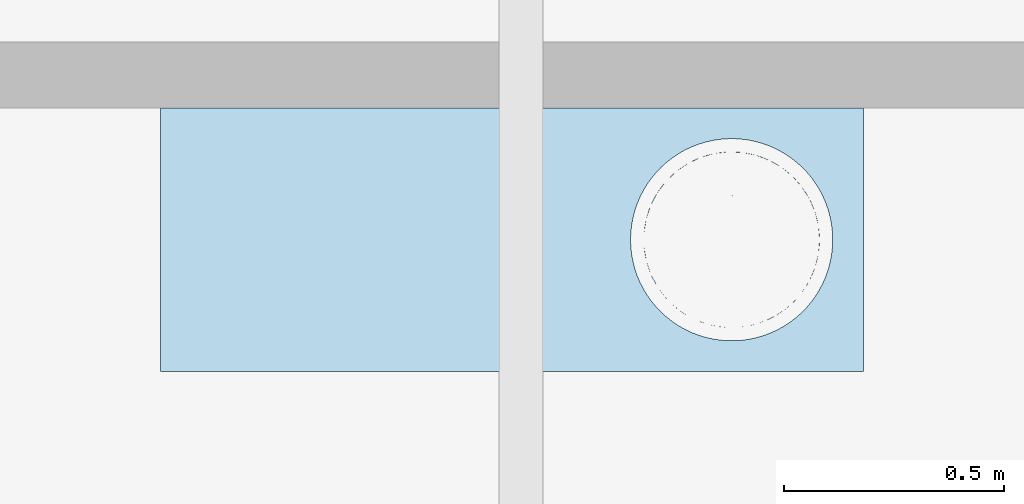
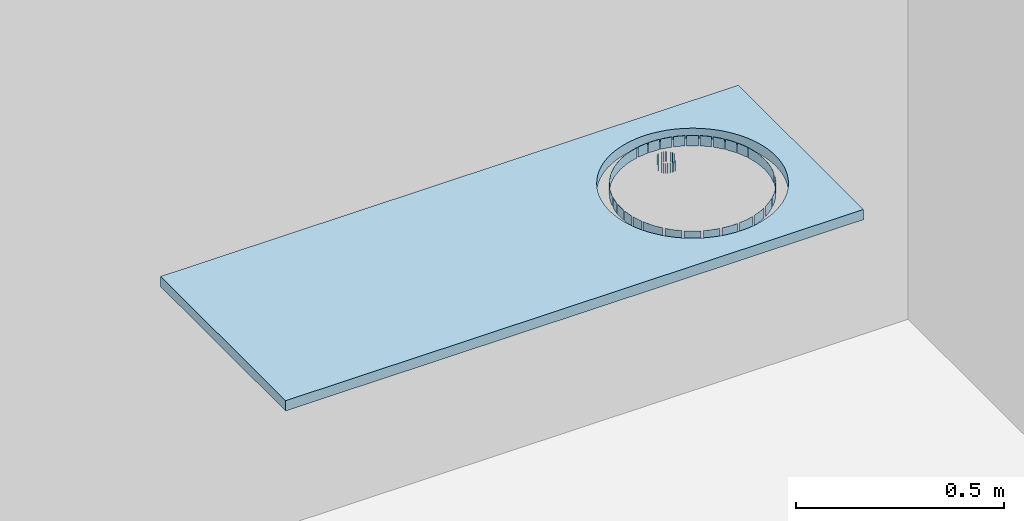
# One storey, part 10 of 140: 1 slab.
"""IFC4 building model written with IfcOpenShell, lengths in metres."""

from ifc_helpers import new_model, entity, si_unit, converted_unit, derived_unit, frame, origin, origin_with_axes, place, context, subcontext, project, spatial, polyline, outline, extrude, material, element, save


model = new_model("IFC4")

# Units and contexts
model_context = context("Model", 3, precision=1e-05, world=origin())
body_context = subcontext(model_context, "Body", "Model", "MODEL_VIEW")
ifc_project = project(units=[si_unit("LENGTHUNIT", "METRE"), si_unit("AREAUNIT", "SQUARE_METRE"), si_unit("VOLUMEUNIT", "CUBIC_METRE"), si_unit("MASSUNIT", "GRAM", prefix="KILO"), converted_unit("PLANEANGLEUNIT", "DEGREE", entity("IfcPlaneAngleMeasure", 0.0174532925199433), si_unit("PLANEANGLEUNIT", "RADIAN"), dimensions=[0, 0, 0, 0, 0, 0, 0]), derived_unit("THERMALTRANSMITTANCEUNIT", [(si_unit("POWERUNIT", "WATT"), 1), (si_unit("THERMODYNAMICTEMPERATUREUNIT", "KELVIN"), -1), (si_unit("LENGTHUNIT", "METRE"), -2)]), derived_unit("VOLUMETRICFLOWRATEUNIT", [(si_unit("LENGTHUNIT", "METRE"), 3), (converted_unit("TIMEUNIT", "hour", entity("IfcTimeMeasure", 3600.0), si_unit("TIMEUNIT", "SECOND"), dimensions=[0, 0, 1, 0, 0, 0, 0]), -1), (si_unit("LENGTHUNIT", "METRE"), -1)])], contexts=[model_context])

# Site, building, storey
site_placement = place(None, origin())
site = spatial("IfcSite", under=ifc_project, at=site_placement, Name="3. ASŘ", CompositionType="ELEMENT")
building_placement = place(site_placement, origin())
building = spatial("IfcBuilding", under=site, at=building_placement, Name="Pavilon C", CompositionType="ELEMENT")
storey_placement = place(building_placement, origin())
storey = spatial("IfcBuildingStorey", under=building, at=storey_placement, Name="Půdorys 1.NP", CompositionType="ELEMENT", Elevation=0.0)

# Slab
ifc_material = material(Name="Nerezová deska")
slab_placement = place(storey_placement, frame((49.18, 9.59969731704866, 0.82)))
element("IfcSlab", 1, at=slab_placement, inside=storey, material=ifc_material, PredefinedType="FLOOR", context=body_context, shape_type="SweptSolid", body=[
    extrude(outline(polyline([(1.59994202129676, 0.0), (1.59994202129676, 0.600168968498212), (0.300000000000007, 0.600246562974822), (0.300000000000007, 0.600302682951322), (0.0, 0.600287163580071), (0.0, 0.000287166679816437), (0.299983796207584, 0.000302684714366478), (0.299983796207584, 7.7594476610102e-05), (1.59994202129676, 0.0)]), holes=[polyline([(1.19477628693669, 0.0954513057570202), (1.18012574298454, 0.10367358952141), (1.16611447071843, 0.112943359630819), (1.15281722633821, 0.123211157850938), (1.14030495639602, 0.134422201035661), (1.12864441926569, 0.146516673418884), (1.11789782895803, 0.159430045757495), (1.10812252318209, 0.173093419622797), (1.09937065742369, 0.187433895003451), (1.09168892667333, 0.202374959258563), (1.08511831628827, 0.217836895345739), (1.07969388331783, 0.233737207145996), (1.07544456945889, 0.249991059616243), (1.07239304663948, 0.266511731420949), (1.07055559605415, 0.283211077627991), (1.06994202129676, 0.3), (1.07055559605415, 0.316788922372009), (1.07239304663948, 0.333488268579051), (1.07544456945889, 0.350008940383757), (1.07969388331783, 0.366262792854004), (1.08511831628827, 0.382163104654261), (1.09168892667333, 0.397625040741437), (1.09937065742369, 0.412566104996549), (1.10812252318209, 0.426906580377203), (1.11789782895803, 0.440569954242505), (1.12864441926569, 0.453483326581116), (1.14030495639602, 0.465577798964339), (1.15281722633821, 0.476788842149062), (1.16611447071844, 0.487056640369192), (1.18012574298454, 0.49632641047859), (1.19477628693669, 0.50454869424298), (1.20998793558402, 0.511679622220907), (1.22567952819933, 0.51768114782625), (1.24176734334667, 0.522521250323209), (1.25816554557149, 0.526174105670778), (1.27478664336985, 0.528620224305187), (1.2915419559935, 0.529846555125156), (1.30834208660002, 0.529846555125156), (1.32509739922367, 0.528620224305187), (1.34171849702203, 0.526174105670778), (1.35811669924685, 0.522521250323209), (1.37420451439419, 0.51768114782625), (1.3898961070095, 0.511679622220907), (1.40510775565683, 0.50454869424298), (1.41975829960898, 0.49632641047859), (1.43376957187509, 0.487056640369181), (1.4470668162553, 0.476788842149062), (1.4595790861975, 0.465577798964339), (1.47123962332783, 0.453483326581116), (1.48198621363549, 0.440569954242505), (1.49176151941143, 0.426906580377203), (1.50051338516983, 0.412566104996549), (1.50819511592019, 0.397625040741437), (1.51476572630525, 0.382163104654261), (1.52019015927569, 0.366262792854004), (1.52443947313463, 0.350008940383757), (1.52749099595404, 0.333488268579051), (1.52932844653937, 0.316788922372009), (1.52994202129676, 0.3), (1.52932844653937, 0.283211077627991), (1.52749099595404, 0.266511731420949), (1.52443947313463, 0.249991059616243), (1.52019015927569, 0.233737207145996), (1.51476572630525, 0.217836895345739), (1.50819511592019, 0.202374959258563), (1.50051338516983, 0.187433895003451), (1.49176151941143, 0.173093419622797), (1.48198621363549, 0.159430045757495), (1.47123962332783, 0.146516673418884), (1.4595790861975, 0.134422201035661), (1.4470668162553, 0.123211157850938), (1.43376957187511, 0.112943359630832), (1.41975829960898, 0.10367358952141), (1.40510775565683, 0.0954513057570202), (1.3898961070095, 0.0883203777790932), (1.37420451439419, 0.0823188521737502), (1.35811669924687, 0.0774787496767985), (1.34171849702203, 0.0738258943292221), (1.32509739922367, 0.0713797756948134), (1.30834208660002, 0.0701534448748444), (1.2915419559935, 0.0701534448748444), (1.27478664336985, 0.0713797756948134), (1.25816554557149, 0.0738258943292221), (1.24176734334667, 0.0774787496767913), (1.22567952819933, 0.0823188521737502), (1.20998793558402, 0.0883203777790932), (1.19477628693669, 0.0954513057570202)])]), origin_with_axes(), (0.0, 0.0, 1.0), 0.03),
    extrude(outline(polyline([(0.00825946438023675, 0.0132792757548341), (0.0162735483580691, 0.0), (0.010390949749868, 0.010188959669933), (0.0105645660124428, 0.010188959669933), (0.0, 0.0303180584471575), (0.00129852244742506, 0.027139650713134), (0.00825946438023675, 0.0132792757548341)])), frame((1.1165709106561, 0.190098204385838, 0.0), z_axis=(0.0, 0.0, 1.0), x_axis=(1.0, 0.0, 0.0)), (0.0, 0.0, 1.0), 0.03),
    extrude(outline(polyline([(0.0, 0.0141638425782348), (0.0245324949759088, 0.0), (0.0192314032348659, 0.00363577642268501), (0.00579922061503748, 0.0113908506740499), (0.0, 0.0141638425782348)])), frame((1.38735150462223, 0.465561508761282, 0.0), z_axis=(0.0, 0.0, 1.0), x_axis=(1.0, 0.0, 0.0)), (0.0, 0.0, 1.0), 0.03),
    extrude(outline(polyline([(0.00049812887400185, 0.0), (0.00049812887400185, 0.0283276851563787), (0.0, 0.0219189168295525), (0.0, 0.00640876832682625), (0.00049812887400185, 0.0)])), frame((1.10009243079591, 0.285836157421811, 0.0), z_axis=(0.0, 0.0, 1.0), x_axis=(1.0, 0.0, 0.0)), (0.0, 0.0, 1.0), 0.03),
    extrude(outline(polyline([(0.0220020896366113, 0.0), (0.0165032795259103, 0.00518785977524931), (0.00443072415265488, 0.0149253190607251), (0.0, 0.0179641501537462), (0.0220020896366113, 0.0)])), frame((1.41494301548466, 0.445499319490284, 0.0), z_axis=(0.0, 0.0, 1.0), x_axis=(1.0, 0.0, 0.0)), (0.0, 0.0, 1.0), 0.03),
    extrude(outline(polyline([(0.0265584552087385, 0.0), (0.0217113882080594, 0.00231770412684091), (0.00724222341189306, 0.00790411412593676), (0.0, 0.0100722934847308), (0.0265584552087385, 0.0)])), frame((1.35744658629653, 0.481325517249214, 0.0), z_axis=(0.0, 0.0, 1.0), x_axis=(1.0, 0.0, 0.0)), (0.0, 0.0, 1.0), 0.03),
    extrude(outline(polyline([(0.000416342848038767, 0.0226799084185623), (0.00281295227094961, 0.00735603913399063), (0.00455636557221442, 0.0), (0.0, 0.0280364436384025), (0.000416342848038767, 0.0226799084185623)])), frame((1.10087800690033, 0.254101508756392, 0.0), z_axis=(0.0, 0.0, 1.0), x_axis=(1.0, 0.0, 0.0)), (0.0, 0.0, 1.0), 0.03),
    extrude(outline(polyline([(0.0, 0.0), (0.00455636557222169, 0.0280364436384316), (0.00281295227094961, 0.0206804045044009), (0.000416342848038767, 0.00535653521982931), (0.0, 0.0)])), frame((1.10087800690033, 0.317862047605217, 0.0), z_axis=(0.0, 0.0, 1.0), x_axis=(1.0, 0.0, 0.0)), (0.0, 0.0, 1.0), 0.03),
    extrude(outline(polyline([(0.0, 0.0214370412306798), (0.0189915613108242, 0.0), (0.0136075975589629, 0.00694652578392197), (0.00318465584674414, 0.0184324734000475), (0.0, 0.0214370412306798)])), frame((1.43954331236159, 0.421610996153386, 0.0), z_axis=(0.0, 0.0, 1.0), x_axis=(1.0, 0.0, 0.0)), (0.0, 0.0, 1.0), 0.03),
    extrude(outline(polyline([(0.00906924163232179, 0.0), (0.0, 0.0271656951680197), (0.00100970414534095, 0.0229054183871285), (0.00574535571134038, 0.00813591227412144), (0.00906924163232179, 0.0)])), frame((1.10625814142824, 0.223460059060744, 0.0), z_axis=(0.0, 0.0, 1.0), x_axis=(1.0, 0.0, 0.0)), (0.0, 0.0, 1.0), 0.03),
    extrude(outline(polyline([(0.0, 0.00572865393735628), (0.0280608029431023, 0.0), (0.0238664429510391, 0.00125570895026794), (0.00870784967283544, 0.00453926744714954), (0.0, 0.00572865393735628)])), frame((1.32596380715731, 0.492422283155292, 0.0), z_axis=(0.0, 0.0, 1.0), x_axis=(1.0, 0.0, 0.0)), (0.0, 0.0, 1.0), 0.03),
    extrude(outline(polyline([(0.00100970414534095, 0.00426027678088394), (0.0, 0.0), (0.00906924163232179, 0.0271656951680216), (0.00574535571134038, 0.019029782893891), (0.00100970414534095, 0.00426027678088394)])), frame((1.10625814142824, 0.349374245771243, 0.0), z_axis=(0.0, 0.0, 1.0), x_axis=(1.0, 0.0, 0.0)), (0.0, 0.0, 1.0), 0.03),
    extrude(outline(polyline([(0.00825946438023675, 0.0170387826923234), (0.00129852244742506, 0.00317840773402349), (0.0, 0.0), (0.0135008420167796, 0.0257237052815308), (0.00825946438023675, 0.0170387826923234)])), frame((1.1165709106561, 0.379583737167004, 0.0), z_axis=(0.0, 0.0, 1.0), x_axis=(1.0, 0.0, 0.0)), (0.0, 0.0, 1.0), 0.03),
    extrude(outline(polyline([(0.0, 0.0011697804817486), (0.0290278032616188, 0.0), (0.0256259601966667, 0.000464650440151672), (0.010142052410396, 0.001366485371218), (0.0, 0.0011697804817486)])), frame((1.29367823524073, 0.498595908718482, 0.0), z_axis=(0.0, 0.0, 1.0), x_axis=(1.0, 0.0, 0.0)), (0.0, 0.0, 1.0), 0.03),
    extrude(outline(polyline([(0.0155269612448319, 0.0), (0.0106262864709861, 0.00888162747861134), (0.00210332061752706, 0.0218401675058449), (0.0, 0.0245539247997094), (0.0155269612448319, 0.0)])), frame((1.46054911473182, 0.394458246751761, 0.0), z_axis=(0.0, 0.0, 1.0), x_axis=(1.0, 0.0, 0.0)), (0.0, 0.0, 1.0), 0.03),
    extrude(outline(polyline([(0.0, 0.0), (0.0294566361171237, 0.00357668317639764), (0.0269277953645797, 0.00352763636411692), (0.0114905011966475, 0.00202608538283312), (0.0, 0.0)])), frame((1.26138526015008, 0.496133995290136, 0.0), z_axis=(0.0, 0.0, 1.0), x_axis=(1.0, 0.0, 0.0)), (0.0, 0.0, 1.0), 0.03),
    extrude(outline(polyline([(0.0, 0.0), (0.0178258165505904, 0.0237218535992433), (0.0103259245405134, 0.0147838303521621), (0.00130689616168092, 0.00216551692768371), (0.0, 0.0)])), frame((1.13153756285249, 0.407736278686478, 0.0), z_axis=(0.0, 0.0, 1.0), x_axis=(1.0, 0.0, 0.0)), (0.0, 0.0, 1.0), 0.03),
    extrude(outline(polyline([(0.0, 0.0272985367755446), (0.0116308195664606, 0.0), (0.00764021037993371, 0.0109641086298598), (0.0012219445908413, 0.0250839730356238), (0.0, 0.0272985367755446)])), frame((1.4774466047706, 0.364675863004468, 0.0), z_axis=(0.0, 0.0, 1.0), x_axis=(1.0, 0.0, 0.0)), (0.0, 0.0, 1.0), 0.03),
    extrude(outline(polyline([(0.0012219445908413, 0.00221456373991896), (0.00764021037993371, 0.0163344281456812), (0.0116308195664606, 0.0272985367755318), (0.0, 0.0), (0.0012219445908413, 0.00221456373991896)])), frame((1.4774466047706, 0.208025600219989, 0.0), z_axis=(0.0, 0.0, 1.0), x_axis=(1.0, 0.0, 0.0)), (0.0, 0.0, 1.0), 0.03),
    extrude(outline(polyline([(0.00195815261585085, 0.0162074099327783), (0.00255956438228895, 0.031705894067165), (0.0, 0.0), (0.000157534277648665, 0.000802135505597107), (0.00195815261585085, 0.0162074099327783)])), frame((1.49738245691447, 0.268294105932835, 0.0), z_axis=(0.0, 0.0, 1.0), x_axis=(1.0, 0.0, 0.0)), (0.0, 0.0, 1.0), 0.03),
    extrude(outline(polyline([(0.0, 0.0317058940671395), (0.00255956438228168, 0.0), (0.00195815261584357, 0.0154984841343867), (0.000157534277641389, 0.0309037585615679), (0.0, 0.0317058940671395)])), frame((1.49738245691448, 0.3, 0.0), z_axis=(0.0, 0.0, 1.0), x_axis=(1.0, 0.0, 0.0)), (0.0, 0.0, 1.0), 0.03),
    extrude(outline(polyline([(0.0, 0.0), (0.0261783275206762, 0.0180695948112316), (0.0130569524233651, 0.00979951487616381), (0.000615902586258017, 0.000537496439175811), (0.0, 0.0)])), frame((1.17376369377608, 0.455135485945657, 0.0), z_axis=(0.0, 0.0, 1.0), x_axis=(1.0, 0.0, 0.0)), (0.0, 0.0, 1.0), 0.03),
    extrude(outline(polyline([(0.0137227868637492, 0.0072284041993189), (0.0, 0.0), (0.0287378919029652, 0.0136362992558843), (0.0279644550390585, 0.0133716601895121), (0.0137227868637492, 0.0072284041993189)])), frame((1.19994202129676, 0.473205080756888, 0.0), z_axis=(0.0, 0.0, 1.0), x_axis=(1.0, 0.0, 0.0)), (0.0, 0.0, 1.0), 0.03),
    extrude(outline(polyline([(0.00472685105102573, 0.0131717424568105), (0.000567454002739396, 0.028113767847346), (0.0, 0.0296728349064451), (0.00731369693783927, 0.0), (0.00472685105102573, 0.0131717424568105)])), frame((1.4898241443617, 0.332951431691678, 0.0), z_axis=(0.0, 0.0, 1.0), x_axis=(1.0, 0.0, 0.0)), (0.0, 0.0, 1.0), 0.03),
    extrude(outline(polyline([(0.000567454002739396, 0.00155906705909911), (0.00472685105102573, 0.0165010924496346), (0.00731369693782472, 0.0296728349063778), (0.0, 0.0), (0.000567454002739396, 0.00155906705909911)])), frame((1.4898241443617, 0.237375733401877, 0.0), z_axis=(0.0, 0.0, 1.0), x_axis=(1.0, 0.0, 0.0)), (0.0, 0.0, 1.0), 0.03),
    extrude(outline(polyline([(0.0293542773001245, 0.00850257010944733), (0.0277203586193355, 0.00821446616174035), (0.0127004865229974, 0.00434559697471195), (0.0, 0.0), (0.0293542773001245, 0.00850257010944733)])), frame((1.22988088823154, 0.487252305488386, 0.0), z_axis=(0.0, 0.0, 1.0), x_axis=(1.0, 0.0, 0.0)), (0.0, 0.0, 1.0), 0.03),
    extrude(outline(polyline([(0.0220405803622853, 0.021170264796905), (0.011926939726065, 0.0123441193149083), (0.00106646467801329, 0.00127096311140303), (0.0, 0.0), (0.0220405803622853, 0.021170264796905)])), frame((1.15076675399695, 0.433130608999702, 0.0), z_axis=(0.0, 0.0, 1.0), x_axis=(1.0, 0.0, 0.0)), (0.0, 0.0, 1.0), 0.03),
    extrude(outline(polyline([(0.00474960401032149, 0.00502116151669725), (0.0194245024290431, 0.0), (0.0, 0.00706994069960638), (0.00474960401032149, 0.00502116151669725)])), frame((1.2231568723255, 0.108402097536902, 0.0), z_axis=(0.0, 0.0, 1.0), x_axis=(1.0, 0.0, 0.0)), (0.0, 0.0, 1.0), 0.03),
    extrude(outline(polyline([(0.0184723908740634, 0.0), (0.0, 0.00927718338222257), (0.0137227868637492, 0.00204877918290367), (0.0184723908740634, 0.0)])), frame((1.19994202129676, 0.117517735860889, 0.0), z_axis=(0.0, 0.0, 1.0), x_axis=(1.0, 0.0, 0.0)), (0.0, 0.0, 1.0), 0.03),
    extrude(outline(polyline([(0.00516389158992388, 0.000300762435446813), (0.0205313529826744, 0.00239977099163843), (0.0, 0.0), (0.00516389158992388, 0.000300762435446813)])), frame((1.31414030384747, 0.10063867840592, 0.0), z_axis=(0.0, 0.0, 1.0), x_axis=(1.0, 0.0, 0.0)), (0.0, 0.0, 1.0), 0.03),
    extrude(outline(polyline([(0.020671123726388, 0.000300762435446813), (0.0, 0.000300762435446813), (0.0155072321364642, 0.0), (0.020671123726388, 0.000300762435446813)])), frame((1.28831305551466, 0.1000376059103, 0.0), z_axis=(0.0, 0.0, 1.0), x_axis=(1.0, 0.0, 0.0)), (0.0, 0.0, 1.0), 0.03),
    extrude(outline(polyline([(0.0184723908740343, 0.00927718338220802), (0.0, 0.0), (0.0139927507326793, 0.00669086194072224), (0.0184723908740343, 0.00927718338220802)])), frame((1.37915797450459, 0.116356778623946, 0.0), z_axis=(0.0, 0.0, 1.0), x_axis=(1.0, 0.0, 0.0)), (0.0, 0.0, 1.0), 0.03),
    extrude(outline(polyline([(0.00509405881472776, 0.0015015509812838), (0.0205313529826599, 0.0), (0.0, 0.00239977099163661), (0.00509405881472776, 0.0015015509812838)])), frame((1.267781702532, 0.100338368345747, 0.0), z_axis=(0.0, 0.0, 1.0), x_axis=(1.0, 0.0, 0.0)), (0.0, 0.0, 1.0), 0.03),
    extrude(outline(polyline([(0.00414909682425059, 0.00827007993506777), (0.0172704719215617, 0.0), (0.0, 0.0113589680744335), (0.00414909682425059, 0.00827007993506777)])), frame((1.1826715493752, 0.126794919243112, 0.0), z_axis=(0.0, 0.0, 1.0), x_axis=(1.0, 0.0, 0.0)), (0.0, 0.0, 1.0), 0.03),
    extrude(outline(polyline([(0.00495533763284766, 0.0014835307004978), (0.019424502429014, 0.00706994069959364), (0.0, 0.0), (0.00495533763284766, 0.0014835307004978)])), frame((1.35973347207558, 0.109286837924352, 0.0), z_axis=(0.0, 0.0, 1.0), x_axis=(1.0, 0.0, 0.0)), (0.0, 0.0, 1.0), 0.03),
    extrude(outline(polyline([(0.00376244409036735, 0.00354968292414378), (0.0141853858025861, 0.0150356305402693), (0.0, 0.0), (0.00376244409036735, 0.00354968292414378)])), frame((1.43896552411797, 0.156406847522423, 0.0), z_axis=(0.0, 0.0, 1.0), x_axis=(1.0, 0.0, 0.0)), (0.0, 0.0, 1.0), 0.03),
    extrude(outline(polyline([(0.0158349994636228, 0.0132871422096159), (0.0, 0.0), (0.0120725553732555, 0.00973745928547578), (0.0158349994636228, 0.0132871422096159)])), frame((1.41937373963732, 0.139575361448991, 0.0), z_axis=(0.0, 0.0, 1.0), x_axis=(1.0, 0.0, 0.0)), (0.0, 0.0, 1.0), 0.03),
    extrude(outline(polyline([(0.0123439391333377, 0.0), (0.0, 0.0165807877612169), (0.00901902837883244, 0.00396247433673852), (0.0123439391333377, 0.0)])), frame((1.13284445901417, 0.173517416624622, 0.0), z_axis=(0.0, 0.0, 1.0), x_axis=(1.0, 0.0, 0.0)), (0.0, 0.0, 1.0), 0.03),
    extrude(outline(polyline([(0.0158349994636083, 0.0), (0.0, 0.0132871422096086), (0.0116859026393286, 0.00308888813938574), (0.0158349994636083, 0.0)])), frame((1.16269369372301, 0.141238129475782, 0.0), z_axis=(0.0, 0.0, 1.0), x_axis=(1.0, 0.0, 0.0)), (0.0, 0.0, 1.0), 0.03),
    extrude(outline(polyline([(0.0044796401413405, 0.00258632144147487), (0.0172704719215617, 0.0113589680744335), (0.0, 0.0), (0.0044796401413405, 0.00258632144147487)])), frame((1.40210326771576, 0.128216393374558, 0.0), z_axis=(0.0, 0.0, 1.0), x_axis=(1.0, 0.0, 0.0)), (0.0, 0.0, 1.0), 0.03),
    extrude(outline(polyline([(0.0201139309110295, 0.00476708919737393), (0.0, 0.0), (0.0151585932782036, 0.0032835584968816), (0.0201139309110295, 0.00476708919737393)])), frame((1.33467165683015, 0.103038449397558, 0.0), z_axis=(0.0, 0.0, 1.0), x_axis=(1.0, 0.0, 0.0)), (0.0, 0.0, 1.0), 0.03),
    extrude(outline(polyline([(0.0201139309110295, 0.0), (0.0, 0.00476708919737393), (0.0150198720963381, 0.00089822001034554), (0.0201139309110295, 0.0)])), frame((1.24258137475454, 0.103635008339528, 0.0), z_axis=(0.0, 0.0, 1.0), x_axis=(1.0, 0.0, 0.0)), (0.0, 0.0, 1.0), 0.03),
    extrude(outline(polyline([(0.012343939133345, 0.0165807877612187), (0.0, 0.0), (0.00950152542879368, 0.0122591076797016), (0.012343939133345, 0.0165807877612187)])), frame((1.45315090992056, 0.171442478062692, 0.0), z_axis=(0.0, 0.0, 1.0), x_axis=(1.0, 0.0, 0.0)), (0.0, 0.0, 1.0), 0.03),
    extrude(outline(polyline([(0.0033249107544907, 0.0110731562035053), (0.0141853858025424, 0.0), (0.0, 0.0150356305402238), (0.0033249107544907, 0.0110731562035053)])), frame((1.14850830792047, 0.15452527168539, 0.0), z_axis=(0.0, 0.0, 1.0), x_axis=(1.0, 0.0, 0.0)), (0.0, 0.0, 1.0), 0.03),
    extrude(outline(polyline([(0.00284241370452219, 0.00432168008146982), (0.00774308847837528, 0.0132033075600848), (0.00442028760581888, 0.00794871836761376), (0.00458919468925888, 0.00794871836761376), (0.0, 0.0), (0.00284241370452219, 0.00432168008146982)])), frame((1.46833298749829, 0.192338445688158, 0.0), z_axis=(0.0, 0.0, 1.0), x_axis=(1.0, 0.0, 0.0)), (0.0, 0.0, 1.0), 0.03),
    extrude(outline(polyline([(0.000739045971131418, 0.0), (0.000465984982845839, 0.000810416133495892), (0.0, 0.00158488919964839), (0.000739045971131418, 0.0)])), frame((1.32216542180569, 0.434686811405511, 0.0), z_axis=(0.0, 0.0, 1.0), x_axis=(1.0, 0.0, 0.0)), (0.0, 0.0, 1.0), 0.03),
    extrude(outline(polyline([(0.000739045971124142, 0.00158488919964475), (0.0, 0.0), (0.000465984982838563, 0.000774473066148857), (0.000739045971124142, 0.00158488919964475)])), frame((1.32216542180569, 0.413728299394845, 0.0), z_axis=(0.0, 0.0, 1.0), x_axis=(1.0, 0.0, 0.0)), (0.0, 0.0, 1.0), 0.03),
    extrude(outline(polyline([(0.000936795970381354, 0.000297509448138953), (0.0, 0.000451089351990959), (0.00168348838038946, 0.0), (0.000936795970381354, 0.000297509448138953)])), frame((1.30569343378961, 0.448791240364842, 0.0), z_axis=(0.0, 0.0, 1.0), x_axis=(1.0, 0.0, 0.0)), (0.0, 0.0, 1.0), 0.03),
    extrude(outline(polyline([(0.00168348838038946, 0.000451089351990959), (0.0, 0.0), (0.000936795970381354, 0.000153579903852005), (0.00168348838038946, 0.000451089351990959)])), frame((1.30569343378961, 0.400757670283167, 0.0), z_axis=(0.0, 0.0, 1.0), x_axis=(1.0, 0.0, 0.0)), (0.0, 0.0, 1.0), 0.03),
    extrude(outline(polyline([(0.0, 0.0), (0.00141790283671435, 0.000992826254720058), (0.000755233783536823, 0.000641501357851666), (0.0, 0.0)])), frame((1.28515711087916, 0.44505072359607, 0.0), z_axis=(0.0, 0.0, 1.0), x_axis=(1.0, 0.0, 0.0)), (0.0, 0.0, 1.0), 0.03),
    extrude(outline(polyline([(0.0, 0.000992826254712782), (0.000755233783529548, 0.000351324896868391), (0.00141790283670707, 0.0), (0.0, 0.000992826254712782)])), frame((1.28515711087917, 0.40395645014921, 0.0), z_axis=(0.0, 0.0, 1.0), x_axis=(1.0, 0.0, 0.0)), (0.0, 0.0, 1.0), 0.03),
    extrude(outline(polyline([(0.0, 0.00102788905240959), (0.0, 0.0), (0.000149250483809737, 0.00170594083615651), (0.0, 0.00102788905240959)])), frame((1.2750885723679, 0.42667508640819, 0.0), z_axis=(0.0, 0.0, 1.0), x_axis=(1.0, 0.0, 0.0)), (0.0, 0.0, 1.0), 0.03),
    extrude(outline(polyline([(0.0, 0.00170594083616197), (0.0, 0.00067805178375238), (0.000149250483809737, 0.0), (0.0, 0.00170594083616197)])), frame((1.2750885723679, 0.421618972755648, 0.0), z_axis=(0.0, 0.0, 1.0), x_axis=(1.0, 0.0, 0.0)), (0.0, 0.0, 1.0), 0.03),
    extrude(outline(polyline([(0.00119265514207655, 0.0), (0.0, 0.00119265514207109), (0.000385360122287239, 0.000685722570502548), (0.00119265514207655, 0.0)])), frame((1.28140677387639, 0.407121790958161, 0.0), z_axis=(0.0, 0.0, 1.0), x_axis=(1.0, 0.0, 0.0)), (0.0, 0.0, 1.0), 0.03),
    extrude(outline(polyline([(0.00119265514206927, 0.00119265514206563), (0.00038536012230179, 0.000506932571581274), (0.0, 0.0), (0.00119265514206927, 0.00119265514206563)])), frame((1.28140677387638, 0.441685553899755, 0.0), z_axis=(0.0, 0.0, 1.0), x_axis=(1.0, 0.0, 0.0)), (0.0, 0.0, 1.0), 0.03),
    extrude(outline(polyline([(0.00164615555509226, 0.0), (0.000576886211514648, 0.000175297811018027), (0.0, 0.000144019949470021), (0.00164615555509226, 0.0)])), frame((1.30071860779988, 0.44978803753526, 0.0), z_axis=(0.0, 0.0, 1.0), x_axis=(1.0, 0.0, 0.0)), (0.0, 0.0, 1.0), 0.03),
    extrude(outline(polyline([(0.000576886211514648, 0.0), (0.00164615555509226, 0.000175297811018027), (0.0, 3.12778615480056e-05), (0.000576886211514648, 0.0)])), frame((1.30071860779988, 0.400036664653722, 0.0), z_axis=(0.0, 0.0, 1.0), x_axis=(1.0, 0.0, 0.0)), (0.0, 0.0, 1.0), 0.03),
    extrude(outline(polyline([(0.000355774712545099, 0.000941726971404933), (0.0, 0.00131731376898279), (0.000922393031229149, 0.0), (0.000355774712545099, 0.000941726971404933)])), frame((1.31948857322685, 0.439187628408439, 0.0), z_axis=(0.0, 0.0, 1.0), x_axis=(1.0, 0.0, 0.0)), (0.0, 0.0, 1.0), 0.03),
    extrude(outline(polyline([(0.0, 0.0), (0.000355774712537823, 0.000375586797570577), (0.000922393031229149, 0.0013173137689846), (0.0, 0.0)])), frame((1.31948857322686, 0.409495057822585, 0.0), z_axis=(0.0, 0.0, 1.0), x_axis=(1.0, 0.0, 0.0)), (0.0, 0.0, 1.0), 0.03),
    extrude(outline(polyline([(0.000401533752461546, 0.0014985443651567), (0.0, 0.0), (0.00035225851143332, 0.00104546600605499), (0.000401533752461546, 0.0014985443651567)])), frame((1.32400527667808, 0.418580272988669, 0.0), z_axis=(0.0, 0.0, 1.0), x_axis=(1.0, 0.0, 0.0)), (0.0, 0.0, 1.0), 0.03),
    extrude(outline(polyline([(0.00035225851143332, 0.000453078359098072), (0.0, 0.00149854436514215), (0.000401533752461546, 0.0), (0.00035225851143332, 0.000453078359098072)])), frame((1.32400527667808, 0.429921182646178, 0.0), z_axis=(0.0, 0.0, 1.0), x_axis=(1.0, 0.0, 0.0)), (0.0, 0.0, 1.0), 0.03),
    extrude(outline(polyline([(0.0, 0.000624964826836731), (0.00134024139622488, 0.0), (0.00101488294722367, 0.000220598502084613), (0.0, 0.000624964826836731)])), frame((1.31063734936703, 0.446867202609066, 0.0), z_axis=(0.0, 0.0, 1.0), x_axis=(1.0, 0.0, 0.0)), (0.0, 0.0, 1.0), 0.03),
    extrude(outline(polyline([(0.0, 0.0), (0.00101488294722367, 0.000404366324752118), (0.00134024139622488, 0.000624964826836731), (0.0, 0.0)])), frame((1.31063734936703, 0.402507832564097, 0.0), z_axis=(0.0, 0.0, 1.0), x_axis=(1.0, 0.0, 0.0)), (0.0, 0.0, 1.0), 0.03),
    extrude(outline(polyline([(0.00125537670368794, 0.000585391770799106), (0.000937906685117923, 0.000497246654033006), (0.0, 0.0), (0.00125537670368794, 0.000585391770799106)])), frame((1.28975066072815, 0.447727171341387, 0.0), z_axis=(0.0, 0.0, 1.0), x_axis=(1.0, 0.0, 0.0)), (0.0, 0.0, 1.0), 0.03),
    extrude(outline(polyline([(0.00125537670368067, 0.0), (0.0, 0.000585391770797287), (0.000937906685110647, 8.81451167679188e-05), (0.00125537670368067, 0.0)])), frame((1.28975066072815, 0.401687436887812, 0.0), z_axis=(0.0, 0.0, 1.0), x_axis=(1.0, 0.0, 0.0)), (0.0, 0.0, 1.0), 0.03),
    extrude(outline(polyline([(0.000326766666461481, 0.00121950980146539), (0.00021549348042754, 0.000978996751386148), (0.0, 0.0), (0.000326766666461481, 0.00121950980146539)])), frame((1.27603519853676, 0.432003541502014, 0.0), z_axis=(0.0, 0.0, 1.0), x_axis=(1.0, 0.0, 0.0)), (0.0, 0.0, 1.0), 0.03),
    extrude(outline(polyline([(0.000215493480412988, 0.00024051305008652), (0.000326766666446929, 0.0), (0.0, 0.00121950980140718), (0.000215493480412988, 0.00024051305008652)])), frame((1.27603519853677, 0.416776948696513, 0.0), z_axis=(0.0, 0.0, 1.0), x_axis=(1.0, 0.0, 0.0)), (0.0, 0.0, 1.0), 0.03),
    extrude(outline(polyline([(8.38747983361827e-05, 0.000181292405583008), (0.0, 0.0), (0.000629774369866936, 0.000899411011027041), (8.38747983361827e-05, 0.000181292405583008)])), frame((1.27843671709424, 0.437707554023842, 0.0), z_axis=(0.0, 0.0, 1.0), x_axis=(1.0, 0.0, 0.0)), (0.0, 0.0, 1.0), 0.03),
    extrude(outline(polyline([(0.0, 0.00089941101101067), (8.38747983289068e-05, 0.000718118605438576), (0.000629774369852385, 0.0), (0.0, 0.00089941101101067)])), frame((1.27843671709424, 0.411393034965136, 0.0), z_axis=(0.0, 0.0, 1.0), x_axis=(1.0, 0.0, 0.0)), (0.0, 0.0, 1.0), 0.03),
    extrude(outline(polyline([(0.000865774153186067, 7.57454235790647e-05), (0.000128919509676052, 3.57943256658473e-05), (0.0, 0.0), (0.000865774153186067, 7.57454235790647e-05)])), frame((1.29576855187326, 0.449634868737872, 0.0), z_axis=(0.0, 0.0, 1.0), x_axis=(1.0, 0.0, 0.0)), (0.0, 0.0, 1.0), 0.03),
    extrude(outline(polyline([(0.0, 7.57454235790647e-05), (0.000128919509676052, 3.99510979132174e-05), (0.000865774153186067, 0.0), (0.0, 7.57454235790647e-05)])), frame((1.29576855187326, 0.400289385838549, 0.0), z_axis=(0.0, 0.0, 1.0), x_axis=(1.0, 0.0, 0.0)), (0.0, 0.0, 1.0), 0.03),
    extrude(outline(polyline([(5.56152585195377e-05, 3.77080809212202e-05), (0.000377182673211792, 0.000377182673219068), (0.0, 0.0), (5.56152585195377e-05, 3.77080809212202e-05)])), frame((1.31607106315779, 0.405908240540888, 0.0), z_axis=(0.0, 0.0, 1.0), x_axis=(1.0, 0.0, 0.0)), (0.0, 0.0, 1.0), 0.03),
    extrude(outline(polyline([(0.000377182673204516, 0.0), (5.56152585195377e-05, 0.000339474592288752), (0.0, 0.000377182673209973), (0.000377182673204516, 0.0)])), frame((1.31607106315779, 0.443714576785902, 0.0), z_axis=(0.0, 0.0, 1.0), x_axis=(1.0, 0.0, 0.0)), (0.0, 0.0, 1.0), 0.03),
])

save(model, "model.ifc")
